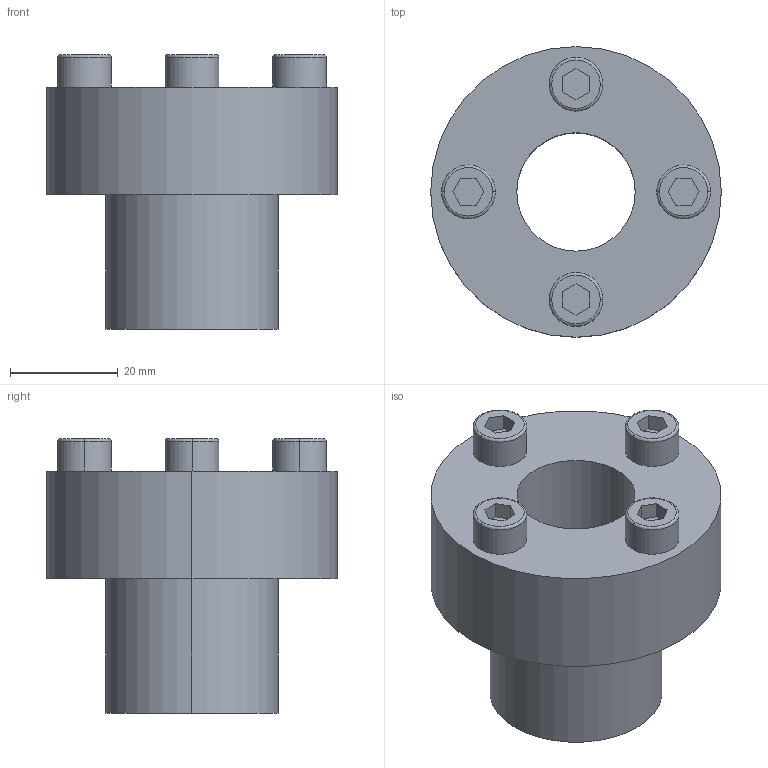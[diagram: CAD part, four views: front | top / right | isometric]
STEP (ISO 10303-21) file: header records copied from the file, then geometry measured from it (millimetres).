
FILE_DESCRIPTION (( 'STEP AP203' ), '1' );
FILE_NAME ('PL-C 22-32.STEP', '2021-10-22T08:30:15', ( '' ), ( '' ), 'SwSTEP 2.0', 'SolidWorks 2018', '' );
FILE_SCHEMA (( 'CONFIG_CONTROL_DESIGN' ));
Length unit declared in the file: millimetre
Products named in the file (1): PL-C 22-32
Bounding box: 54 x 54 x 51 mm (x, y, z)
Volume: 50423.2 mm3; surface area: 13771 mm2
Topology: 1 solids, 1 shells, 57 faces, 130 edges, 84 vertices
Faces by surface type: plane 35, cylinder 14, torus 8
Entity records: 1685 total; most frequent: DIRECTION 290, CARTESIAN_POINT 272, ORIENTED_EDGE 260, EDGE_CURVE 130, AXIS2_PLACEMENT_3D 102, VECTOR 86, LINE 86, VERTEX_POINT 84
